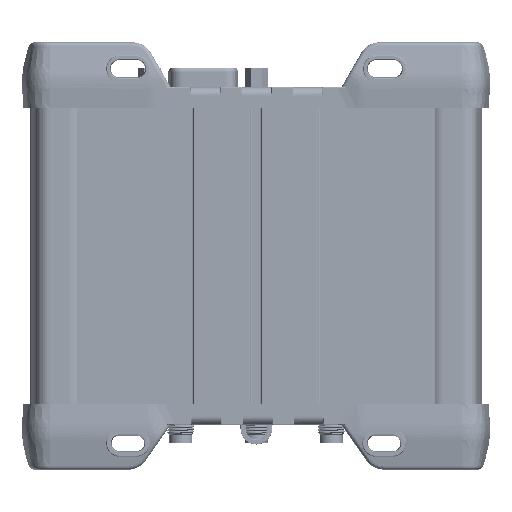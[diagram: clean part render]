
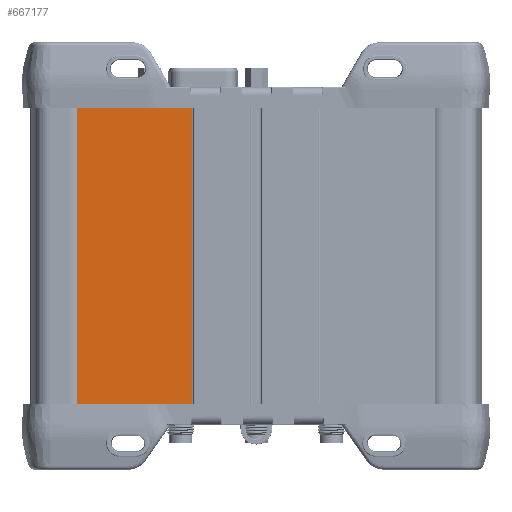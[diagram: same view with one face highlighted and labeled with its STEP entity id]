
A CAD part, front view. The second image highlights one B-rep face of the part: STEP entity #667177.
In plain terms, the highlighted planar face has unit normal (0, -1, 0).
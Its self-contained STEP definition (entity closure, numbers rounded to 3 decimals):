
#12790 = CARTESIAN_POINT ( 'NONE',  ( -15.062, -22.4, 0. ) ) ;
#31774 = DIRECTION ( 'NONE',  ( -1., 0., 0. ) ) ;
#45179 = VECTOR ( 'NONE', #656505, 1000. ) ;
#75051 = VERTEX_POINT ( 'NONE', #191285 ) ;
#87756 = PLANE ( 'NONE',  #478242 ) ;
#88461 = ORIENTED_EDGE ( 'NONE', *, *, #453812, .F. ) ;
#97773 = LINE ( 'NONE', #140045, #417801 ) ;
#119709 = CARTESIAN_POINT ( 'NONE',  ( 0., -22.4, 0. ) ) ;
#123890 = CARTESIAN_POINT ( 'NONE',  ( 0., -22.4, 71.8 ) ) ;
#127983 = EDGE_LOOP ( 'NONE', ( #545095, #88461, #640124, #581039 ) ) ;
#133158 = EDGE_CURVE ( 'NONE', #418865, #373798, #172336, .T. ) ;
#136365 = EDGE_CURVE ( 'NONE', #368476, #75051, #401419, .T. ) ;
#140045 = CARTESIAN_POINT ( 'NONE',  ( -42.062, -22.4, 71.8 ) ) ;
#150421 = DIRECTION ( 'NONE',  ( 0., 0., -1. ) ) ;
#155447 = LINE ( 'NONE', #681828, #401352 ) ;
#172336 = LINE ( 'NONE', #119709, #45179 ) ;
#186172 = CARTESIAN_POINT ( 'NONE',  ( 0., -22.4, 71.8 ) ) ;
#191285 = CARTESIAN_POINT ( 'NONE',  ( -15.062, -22.4, 71.8 ) ) ;
#207981 = CARTESIAN_POINT ( 'NONE',  ( -42.062, -22.4, 71.8 ) ) ;
#243263 = DIRECTION ( 'NONE',  ( 1., 0., 0. ) ) ;
#249407 = FACE_OUTER_BOUND ( 'NONE', #127983, .T. ) ;
#304839 = CARTESIAN_POINT ( 'NONE',  ( -42.062, -22.4, 0. ) ) ;
#347964 = DIRECTION ( 'NONE',  ( 0., 1., 0. ) ) ;
#368476 = VERTEX_POINT ( 'NONE', #207981 ) ;
#369785 = DIRECTION ( 'NONE',  ( 0., 0., -1. ) ) ;
#373798 = VERTEX_POINT ( 'NONE', #12790 ) ;
#401352 = VECTOR ( 'NONE', #369785, 1000. ) ;
#401419 = LINE ( 'NONE', #123890, #631180 ) ;
#417801 = VECTOR ( 'NONE', #150421, 1000. ) ;
#418865 = VERTEX_POINT ( 'NONE', #304839 ) ;
#435875 = EDGE_CURVE ( 'NONE', #368476, #418865, #97773, .T. ) ;
#453812 = EDGE_CURVE ( 'NONE', #75051, #373798, #155447, .T. ) ;
#478242 = AXIS2_PLACEMENT_3D ( 'NONE', #186172, #347964, #31774 ) ;
#545095 = ORIENTED_EDGE ( 'NONE', *, *, #133158, .T. ) ;
#581039 = ORIENTED_EDGE ( 'NONE', *, *, #435875, .T. ) ;
#631180 = VECTOR ( 'NONE', #243263, 1000. ) ;
#640124 = ORIENTED_EDGE ( 'NONE', *, *, #136365, .F. ) ;
#656505 = DIRECTION ( 'NONE',  ( 1., 0., 0. ) ) ;
#667177 = ADVANCED_FACE ( 'NONE', ( #249407 ), #87756, .F. ) ;
#681828 = CARTESIAN_POINT ( 'NONE',  ( -15.062, -22.4, 71.8 ) ) ;
